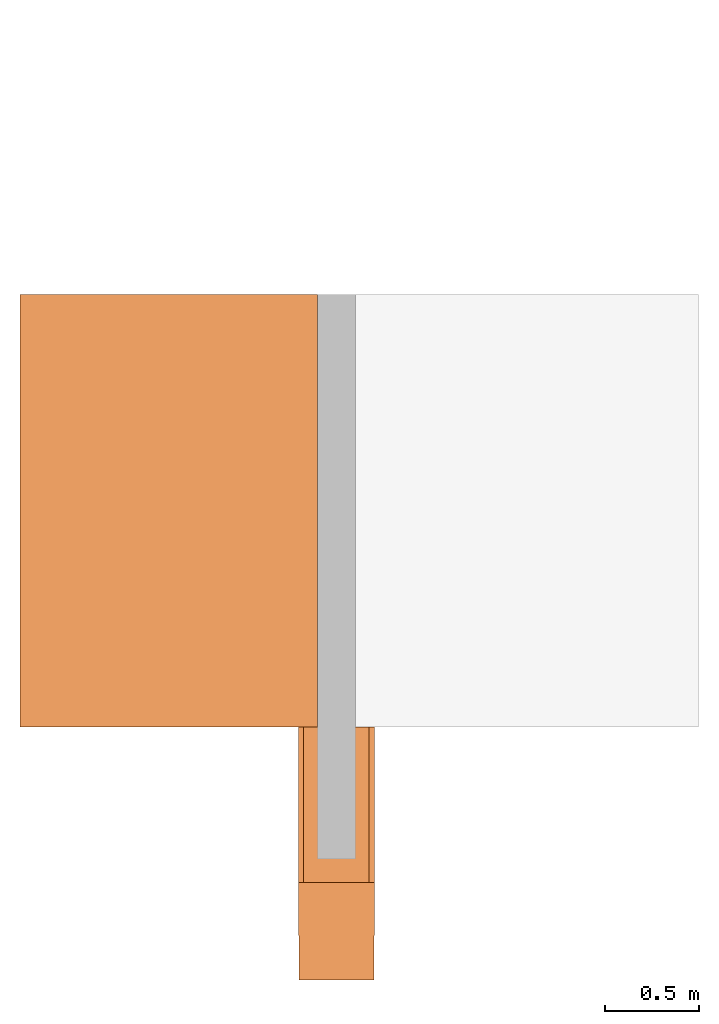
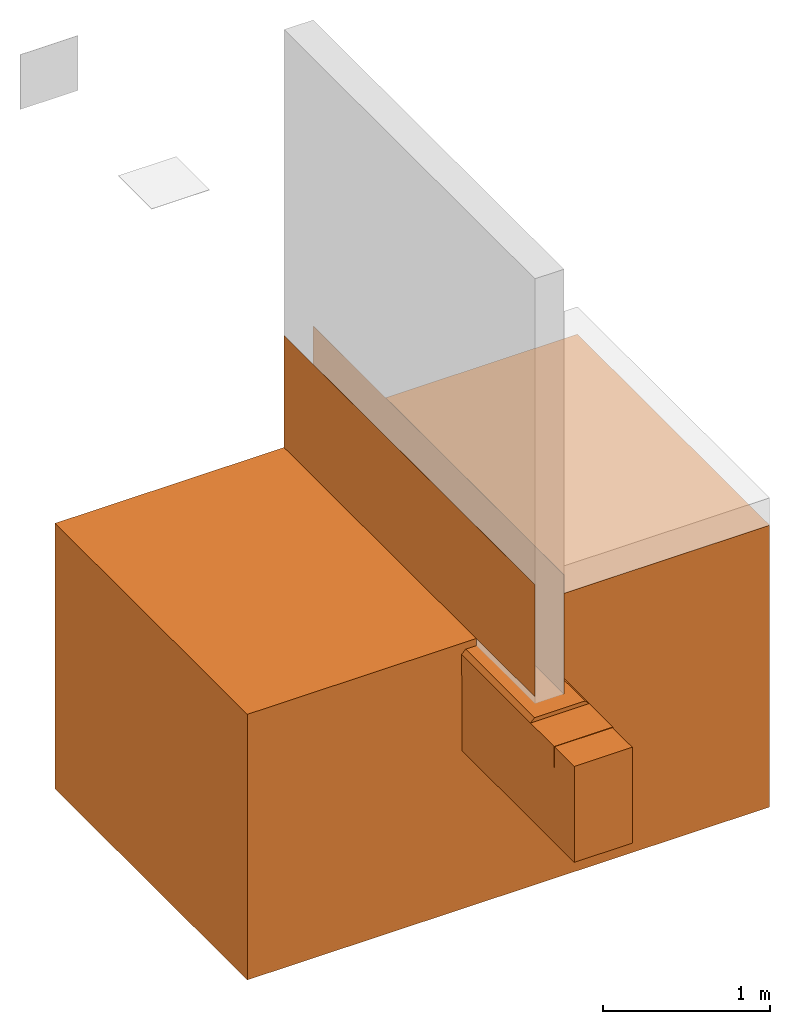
# One storey, part 2 of 2: 1 proxy.
"""IFC2X3 building model written with IfcOpenShell, lengths in metres."""

from ifc_helpers import new_model, entity, si_unit, converted_unit, derived_unit, direction, frame, frame_2d, origin, origin_2d_with_axis, place, context, subcontext, project, spatial, polyline, rectangle, outline, extrude, source, transform, mapped, material, material_list, type_object, type_shapes, element, save


model = new_model("IFC2X3")

# Units and contexts
model_context = context("Model", 3, precision=1e-05, world=origin(), true_north=direction((6.123031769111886e-17, 1.0)))
body_context = subcontext(model_context, "Body", "Model", "MODEL_VIEW")
ifc_project = project(units=[si_unit("LENGTHUNIT", "METRE"), si_unit("AREAUNIT", "SQUARE_METRE"), si_unit("VOLUMEUNIT", "CUBIC_METRE"), converted_unit("PLANEANGLEUNIT", "DEGREE", entity("IfcRatioMeasure", 0.017453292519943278), si_unit("PLANEANGLEUNIT", "RADIAN"), dimensions=[0, 0, 0, 0, 0, 0, 0]), si_unit("MASSUNIT", "GRAM", prefix="KILO"), derived_unit("MASSDENSITYUNIT", [(si_unit("MASSUNIT", "GRAM", prefix="KILO"), 1), (si_unit("LENGTHUNIT", "METRE"), -3)]), derived_unit("IONCONCENTRATIONUNIT", [(si_unit("MASSUNIT", "GRAM", prefix="KILO"), 1), (si_unit("LENGTHUNIT", "METRE"), -3)]), derived_unit("MOMENTOFINERTIAUNIT", [(si_unit("LENGTHUNIT", "METRE"), 4)]), si_unit("TIMEUNIT", "SECOND"), si_unit("FREQUENCYUNIT", "HERTZ"), si_unit("THERMODYNAMICTEMPERATUREUNIT", "DEGREE_CELSIUS"), derived_unit("THERMALTRANSMITTANCEUNIT", [(si_unit("MASSUNIT", "GRAM", prefix="KILO"), 1), (si_unit("THERMODYNAMICTEMPERATUREUNIT", "KELVIN"), -1), (si_unit("TIMEUNIT", "SECOND"), -3)]), derived_unit("THERMALCONDUCTANCEUNIT", [(si_unit("MASSUNIT", "GRAM", prefix="KILO"), 1), (si_unit("THERMODYNAMICTEMPERATUREUNIT", "KELVIN"), -1), (si_unit("TIMEUNIT", "SECOND"), -3), (si_unit("LENGTHUNIT", "METRE"), 1)]), derived_unit("VOLUMETRICFLOWRATEUNIT", [(si_unit("LENGTHUNIT", "METRE"), 3), (si_unit("TIMEUNIT", "SECOND"), -1)]), derived_unit("MASSFLOWRATEUNIT", [(si_unit("MASSUNIT", "GRAM", prefix="KILO"), 1), (si_unit("TIMEUNIT", "SECOND"), -1)]), derived_unit("ROTATIONALFREQUENCYUNIT", [(si_unit("TIMEUNIT", "SECOND"), -1)]), si_unit("ELECTRICCURRENTUNIT", "AMPERE"), si_unit("ELECTRICVOLTAGEUNIT", "VOLT"), si_unit("POWERUNIT", "WATT"), si_unit("FORCEUNIT", "NEWTON", prefix="KILO"), si_unit("ILLUMINANCEUNIT", "LUX"), si_unit("LUMINOUSFLUXUNIT", "LUMEN"), si_unit("LUMINOUSINTENSITYUNIT", "CANDELA"), derived_unit("USERDEFINED", [(si_unit("MASSUNIT", "GRAM", prefix="KILO"), -1), (si_unit("LENGTHUNIT", "METRE"), -2), (si_unit("TIMEUNIT", "SECOND"), 3), (si_unit("LUMINOUSFLUXUNIT", "LUMEN"), 1)]), derived_unit("USERDEFINED", [(si_unit("MASSUNIT", "GRAM", prefix="KILO"), 1), (si_unit("TIMEUNIT", "SECOND"), -3), (si_unit("LENGTHUNIT", "METRE"), 3), (si_unit("ELECTRICCURRENTUNIT", "AMPERE"), -2)]), derived_unit("SOUNDPOWERUNIT", [(si_unit("MASSUNIT", "GRAM", prefix="KILO"), 1), (si_unit("TIMEUNIT", "SECOND"), -3), (si_unit("LENGTHUNIT", "METRE"), 2)]), derived_unit("SOUNDPRESSUREUNIT", [(si_unit("MASSUNIT", "GRAM", prefix="KILO"), 1), (si_unit("LENGTHUNIT", "METRE"), -1), (si_unit("TIMEUNIT", "SECOND"), -2)]), derived_unit("LINEARVELOCITYUNIT", [(si_unit("LENGTHUNIT", "METRE"), 1), (si_unit("TIMEUNIT", "SECOND"), -1)]), si_unit("PRESSUREUNIT", "PASCAL"), derived_unit("USERDEFINED", [(si_unit("MASSUNIT", "GRAM", prefix="KILO"), 1), (si_unit("LENGTHUNIT", "METRE"), -2), (si_unit("TIMEUNIT", "SECOND"), -2)]), derived_unit("LINEARFORCEUNIT", [(si_unit("MASSUNIT", "GRAM", prefix="KILO"), 1), (si_unit("TIMEUNIT", "SECOND"), -2)]), derived_unit("PLANARFORCEUNIT", [(si_unit("MASSUNIT", "GRAM", prefix="KILO"), 1), (si_unit("LENGTHUNIT", "METRE"), -1), (si_unit("TIMEUNIT", "SECOND"), -2)]), derived_unit("SPECIFICHEATCAPACITYUNIT", [(si_unit("THERMODYNAMICTEMPERATUREUNIT", "KELVIN"), -1), (si_unit("LENGTHUNIT", "METRE"), 2), (si_unit("TIMEUNIT", "SECOND"), -2)]), derived_unit("HEATINGVALUEUNIT", [(si_unit("LENGTHUNIT", "METRE"), 2), (si_unit("TIMEUNIT", "SECOND"), -2)]), derived_unit("VAPORPERMEABILITYUNIT", [(si_unit("LENGTHUNIT", "METRE"), -1), (si_unit("TIMEUNIT", "SECOND"), 1)]), derived_unit("DYNAMICVISCOSITYUNIT", [(si_unit("MASSUNIT", "GRAM", prefix="KILO"), 1), (si_unit("TIMEUNIT", "SECOND"), -1), (si_unit("LENGTHUNIT", "METRE"), -1)]), derived_unit("THERMALEXPANSIONCOEFFICIENTUNIT", [(si_unit("THERMODYNAMICTEMPERATUREUNIT", "KELVIN"), -1)]), derived_unit("MODULUSOFELASTICITYUNIT", [(si_unit("MASSUNIT", "GRAM", prefix="KILO"), 1), (si_unit("LENGTHUNIT", "METRE"), -1), (si_unit("TIMEUNIT", "SECOND"), -2)]), derived_unit("ISOTHERMALMOISTURECAPACITYUNIT", [(si_unit("LENGTHUNIT", "METRE"), 3), (si_unit("MASSUNIT", "GRAM", prefix="KILO"), -1)]), derived_unit("MOISTUREDIFFUSIVITYUNIT", [(si_unit("TIMEUNIT", "SECOND"), -1), (si_unit("LENGTHUNIT", "METRE"), 2)])], contexts=[model_context])

# Site, building, storey
site_placement = place(None, origin())
site = spatial("IfcSite", under=ifc_project, at=site_placement, Name="Default", CompositionType="ELEMENT")
building_placement = place(site_placement, origin())
building = spatial("IfcBuilding", under=site, at=building_placement, CompositionType="ELEMENT")
storey_placement = place(building_placement, frame((0.0, 0.0, -0.0025237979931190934)))
storey = spatial("IfcBuildingStorey", under=building, at=storey_placement, Name="ARQ Térreo", CompositionType="ELEMENT", Elevation=-0.0025237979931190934)

# Proxy
ifc_material_1 = material(Name="#argamassa")
ifc_material_2 = material(Name="#imper")
ifc_material_3 = material(Name="#Viapol Baldrame")
ifc_material_4 = material(Name="#solo")
ifc_material_5 = material(Name="#concreto")
ifc_material_list = material_list([ifc_material_1, ifc_material_2, ifc_material_3, ifc_material_4, ifc_material_5])
building_element_proxy_type = type_object("IfcBuildingElementProxyType", Name="IMPER:IMPER", PredefinedType="NOTDEFINED", material=ifc_material_list)
shared_shape = source(origin(), body_context, "Body", "SweptSolid", [
    extrude(outline(polyline([(-0.2030000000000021, -0.014427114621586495), (0.20300000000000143, -0.014427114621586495), (0.1741457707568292, 0.014427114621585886), (-0.1741457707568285, 0.014427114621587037), (-0.2030000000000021, -0.014427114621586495)])), frame((-0.4269704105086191, -2.9786796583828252, -0.5869509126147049), z_axis=(0.0, 1.0, 0.0), x_axis=(-1.0, 0.0, 0.0)), (0.0, 0.0, 1.0), 2.874549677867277),
    extrude(rectangle(XDim=3.0000000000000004, YDim=0.0009999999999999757, at=frame_2d((0.0, 3.382710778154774e-17), x_axis=(1.0, 0.0))), frame((-0.5274704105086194, -1.354129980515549, -0.520527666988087), z_axis=(0.0, 0.0, 1.0), x_axis=(0.0, -1.0, 0.0)), (0.0, 0.0, 1.0), 0.8180038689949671),
    extrude(rectangle(XDim=3.0000000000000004, YDim=0.0009999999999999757, at=frame_2d((0.0, 3.382710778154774e-17), x_axis=(1.0, 0.0))), frame((-0.3264704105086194, -1.354129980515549, -0.572523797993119), z_axis=(0.0, 0.0, 1.0), x_axis=(0.0, -1.0, 0.0)), (0.0, 0.0, 1.0), 0.87),
    extrude(outline(polyline([(-0.07424999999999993, 0.20000000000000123), (0.07575000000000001, 0.20000000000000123), (0.07575000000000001, 0.20300000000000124), (-0.07725000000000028, 0.20300000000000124), (-0.07724999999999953, -0.20300000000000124), (0.07575000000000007, -0.20300000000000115), (0.07575000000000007, -0.20000000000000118), (-0.07425000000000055, -0.20000000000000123), (-0.07424999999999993, 0.20000000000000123)])), frame((-0.42697041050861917, -3.2613095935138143, -0.6786280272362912), z_axis=(0.0, 1.0, 0.0), x_axis=(0.0, 0.0, -1.0)), (0.0, 0.0, 1.0), 3.157179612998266),
    extrude(outline(polyline([(0.3099321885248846, 0.07295963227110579), (0.4799321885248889, 0.07295963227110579), (0.47993218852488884, 1.8979596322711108), (-1.5770367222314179, 1.897959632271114), (-1.5770367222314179, -1.7086770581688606), (0.36192831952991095, -1.7086770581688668), (0.36192831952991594, -0.12704036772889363), (0.3099321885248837, -0.12704036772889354), (0.30993218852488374, -0.20118613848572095), (0.2810779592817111, -0.23004036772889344), (0.12807795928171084, -0.23004036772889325), (0.12807795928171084, -0.2270403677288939), (-0.42192204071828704, -0.2270403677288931), (-0.42192204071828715, 0.17295963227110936), (0.1280779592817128, 0.17295963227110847), (0.1280779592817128, 0.17595963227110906), (0.28107795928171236, 0.17595963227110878), (0.3099321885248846, 0.14710540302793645), (0.3099321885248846, 0.07295963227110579)])), frame((-0.39993004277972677, -2.154129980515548, -0.8824559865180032), z_axis=(0.0, 1.0, 0.0), x_axis=(0.0, 0.0, 1.0)), (0.0, 0.0, 1.0), 2.3000000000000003),
    extrude(rectangle(XDim=3.6439143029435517, YDim=0.40000000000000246, at=origin_2d_with_axis()), frame((-0.4269704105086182, -1.6760871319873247, -1.3043780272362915), z_axis=(0.0, 0.0, 1.0), x_axis=(0.0, -1.0, 0.0)), (0.0, 0.0, 1.0), 0.7000000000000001),
])
type_shapes(building_element_proxy_type, [shared_shape])
proxy_placement = place(storey_placement, frame((0.0, 0.0, 0.0025237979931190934)))
element("IfcBuildingElementProxy", 1, at=proxy_placement, inside=storey, type_object=building_element_proxy_type, material=ifc_material_list, Name="IMPER:IMPER:IMPER : IMPER:IMPER", ObjectType="IMPER:IMPER:IMPER : IMPER:IMPER", context=body_context, shape_type="MappedRepresentation", body=[
    mapped(shared_shape, transform((0.0, 0.0, 0.0), scale=1.0)),
])

save(model, "model.ifc")
